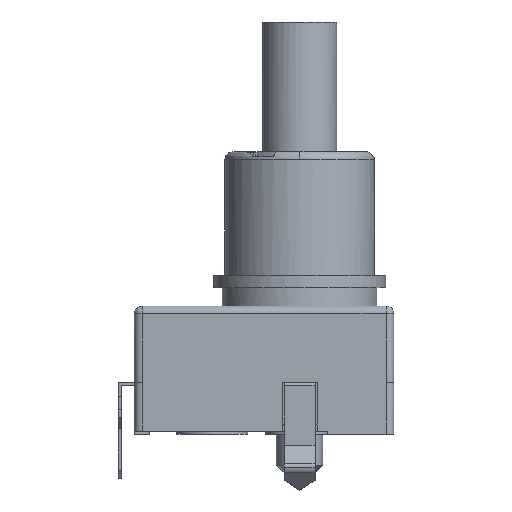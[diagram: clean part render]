
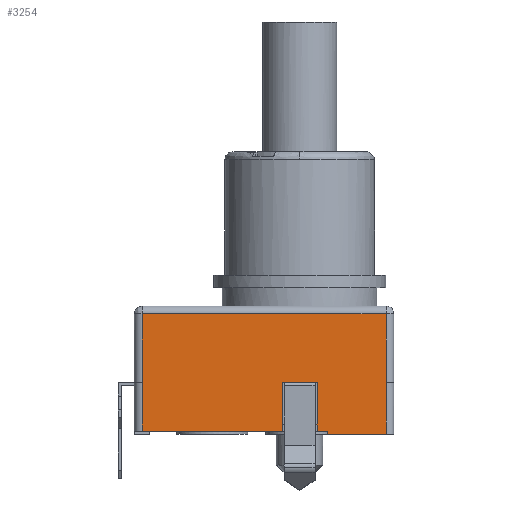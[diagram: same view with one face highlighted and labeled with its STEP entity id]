
A CAD part, top view. The second image highlights one B-rep face of the part: STEP entity #3254.
In plain terms, the highlighted planar face has unit normal (0, 0, 1).
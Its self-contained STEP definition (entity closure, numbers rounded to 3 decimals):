
#126 = VERTEX_POINT ( 'NONE', #7801 ) ;
#237 = CARTESIAN_POINT ( 'NONE',  ( 5.598, -11.85, 7. ) ) ;
#298 = DIRECTION ( 'NONE',  ( 0., 0., -1. ) ) ;
#309 = CARTESIAN_POINT ( 'NONE',  ( 5.598, -15.2, 7. ) ) ;
#376 = EDGE_CURVE ( 'NONE', #126, #15775, #9213, .T. ) ;
#452 = ORIENTED_EDGE ( 'NONE', *, *, #13924, .T. ) ;
#642 = CARTESIAN_POINT ( 'NONE',  ( -10.2, -15.2, 7. ) ) ;
#682 = LINE ( 'NONE', #642, #7141 ) ;
#784 = EDGE_CURVE ( 'NONE', #13717, #13704, #11851, .T. ) ;
#866 = VECTOR ( 'NONE', #6426, 1000. ) ;
#968 = VECTOR ( 'NONE', #8650, 1000. ) ;
#1175 = VECTOR ( 'NONE', #4531, 1000. ) ;
#1200 = B_SPLINE_CURVE_WITH_KNOTS ( 'NONE', 3,
 ( #6208, #8677, #7501, #237 ),
 .UNSPECIFIED., .F., .F.,
 ( 4, 4 ),
 ( 0., 1. ),
 .UNSPECIFIED. ) ;
#1557 = LINE ( 'NONE', #3324, #1175 ) ;
#1740 = LINE ( 'NONE', #10332, #4951 ) ;
#1941 = ORIENTED_EDGE ( 'NONE', *, *, #12797, .F. ) ;
#1972 = CARTESIAN_POINT ( 'NONE',  ( 1.14, -11.85, 7. ) ) ;
#1999 = VERTEX_POINT ( 'NONE', #5540 ) ;
#2303 = ORIENTED_EDGE ( 'NONE', *, *, #10549, .F. ) ;
#2349 = CARTESIAN_POINT ( 'NONE',  ( -10.2, -7.4, 7. ) ) ;
#2468 = CARTESIAN_POINT ( 'NONE',  ( -0.782, -15., 7. ) ) ;
#2472 = CARTESIAN_POINT ( 'NONE',  ( -0.782, -7.4, 7. ) ) ;
#2484 = VECTOR ( 'NONE', #10984, 1000. ) ;
#2617 = DIRECTION ( 'NONE',  ( -1., 0., 0. ) ) ;
#2724 = VECTOR ( 'NONE', #12401, 1000. ) ;
#2742 = VECTOR ( 'NONE', #14718, 1000. ) ;
#2857 = LINE ( 'NONE', #2468, #2484 ) ;
#3172 = ORIENTED_EDGE ( 'NONE', *, *, #13498, .F. ) ;
#3254 = ADVANCED_FACE ( 'NONE', ( #5310 ), #12336, .F. ) ;
#3323 = VECTOR ( 'NONE', #5835, 1000. ) ;
#3324 = CARTESIAN_POINT ( 'NONE',  ( 5.6, -15.2, 7. ) ) ;
#3388 = VECTOR ( 'NONE', #13317, 1000. ) ;
#3576 = CARTESIAN_POINT ( 'NONE',  ( -0.782, -15., 7. ) ) ;
#4212 = EDGE_CURVE ( 'NONE', #8545, #13845, #5972, .T. ) ;
#4230 = DIRECTION ( 'NONE',  ( 0., 1., 0. ) ) ;
#4297 = VERTEX_POINT ( 'NONE', #4880 ) ;
#4531 = DIRECTION ( 'NONE',  ( 0., -1., 0. ) ) ;
#4880 = CARTESIAN_POINT ( 'NONE',  ( 1.798, -15., 7. ) ) ;
#4951 = VECTOR ( 'NONE', #7983, 1000. ) ;
#5119 = EDGE_CURVE ( 'NONE', #5138, #10331, #11672, .T. ) ;
#5138 = VERTEX_POINT ( 'NONE', #5958 ) ;
#5236 = CARTESIAN_POINT ( 'NONE',  ( -10.2, -11.85, 7. ) ) ;
#5310 = FACE_OUTER_BOUND ( 'NONE', #10324, .T. ) ;
#5416 = VERTEX_POINT ( 'NONE', #10677 ) ;
#5476 = LINE ( 'NONE', #9943, #11961 ) ;
#5540 = CARTESIAN_POINT ( 'NONE',  ( -10.202, -15., 7. ) ) ;
#5835 = DIRECTION ( 'NONE',  ( -1., 0., 0. ) ) ;
#5846 = CARTESIAN_POINT ( 'NONE',  ( -10.2, -11.85, 7. ) ) ;
#5852 = ORIENTED_EDGE ( 'NONE', *, *, #14104, .F. ) ;
#5910 = ORIENTED_EDGE ( 'NONE', *, *, #376, .F. ) ;
#5958 = CARTESIAN_POINT ( 'NONE',  ( -10.201, -11.85, 7. ) ) ;
#5972 = LINE ( 'NONE', #2472, #2742 ) ;
#5995 = EDGE_CURVE ( 'NONE', #13717, #13549, #12651, .T. ) ;
#6134 = CARTESIAN_POINT ( 'NONE',  ( 5.6, -11.85, 7. ) ) ;
#6208 = CARTESIAN_POINT ( 'NONE',  ( 5.6, -11.85, 7. ) ) ;
#6354 = CARTESIAN_POINT ( 'NONE',  ( 1.798, -15.2, 7. ) ) ;
#6426 = DIRECTION ( 'NONE',  ( 0., 1., 0. ) ) ;
#6673 = ORIENTED_EDGE ( 'NONE', *, *, #12026, .F. ) ;
#7001 = ORIENTED_EDGE ( 'NONE', *, *, #8008, .F. ) ;
#7141 = VECTOR ( 'NONE', #4230, 1000. ) ;
#7334 = LINE ( 'NONE', #13716, #866 ) ;
#7343 = ORIENTED_EDGE ( 'NONE', *, *, #4212, .F. ) ;
#7501 = CARTESIAN_POINT ( 'NONE',  ( 5.599, -11.85, 7. ) ) ;
#7564 = CARTESIAN_POINT ( 'NONE',  ( -0.782, -15.2, 7. ) ) ;
#7801 = CARTESIAN_POINT ( 'NONE',  ( 5.598, -11.85, 7. ) ) ;
#7983 = DIRECTION ( 'NONE',  ( 0., 1., 0. ) ) ;
#8008 = EDGE_CURVE ( 'NONE', #5416, #1999, #2857, .T. ) ;
#8038 = EDGE_CURVE ( 'NONE', #1999, #5138, #10686, .T. ) ;
#8459 = CARTESIAN_POINT ( 'NONE',  ( 1.14, -15.2, 7. ) ) ;
#8545 = VERTEX_POINT ( 'NONE', #2349 ) ;
#8560 = EDGE_CURVE ( 'NONE', #4297, #13704, #15568, .T. ) ;
#8650 = DIRECTION ( 'NONE',  ( 0., 1., 0. ) ) ;
#8677 = CARTESIAN_POINT ( 'NONE',  ( 5.599, -11.85, 7. ) ) ;
#8790 = DIRECTION ( 'NONE',  ( 0., 1., 0. ) ) ;
#8897 = ORIENTED_EDGE ( 'NONE', *, *, #8038, .F. ) ;
#9213 = LINE ( 'NONE', #309, #2724 ) ;
#9332 = ORIENTED_EDGE ( 'NONE', *, *, #784, .T. ) ;
#9389 = CARTESIAN_POINT ( 'NONE',  ( 5.598, -15.2, 7. ) ) ;
#9412 = VERTEX_POINT ( 'NONE', #6134 ) ;
#9943 = CARTESIAN_POINT ( 'NONE',  ( -0.782, -15.2, 7. ) ) ;
#9964 = CARTESIAN_POINT ( 'NONE',  ( 5.6, -7.4, 7. ) ) ;
#10275 = VERTEX_POINT ( 'NONE', #6354 ) ;
#10324 = EDGE_LOOP ( 'NONE', ( #5910, #3172, #2303, #7343, #5852, #11495, #8897, #7001, #452, #14258, #9332, #11882, #6673, #1941 ) ) ;
#10331 = VERTEX_POINT ( 'NONE', #5236 ) ;
#10332 = CARTESIAN_POINT ( 'NONE',  ( 1.798, -15., 7. ) ) ;
#10549 = EDGE_CURVE ( 'NONE', #13845, #9412, #1557, .T. ) ;
#10677 = CARTESIAN_POINT ( 'NONE',  ( -1.14, -15., 7. ) ) ;
#10686 = LINE ( 'NONE', #14714, #968 ) ;
#10984 = DIRECTION ( 'NONE',  ( -1., 0., 0. ) ) ;
#11495 = ORIENTED_EDGE ( 'NONE', *, *, #5119, .F. ) ;
#11672 = B_SPLINE_CURVE_WITH_KNOTS ( 'NONE', 3,
 ( #11939, #11887, #13164, #5846 ),
 .UNSPECIFIED., .F., .F.,
 ( 4, 4 ),
 ( 0., 1. ),
 .UNSPECIFIED. ) ;
#11851 = LINE ( 'NONE', #8459, #14701 ) ;
#11882 = ORIENTED_EDGE ( 'NONE', *, *, #8560, .F. ) ;
#11887 = CARTESIAN_POINT ( 'NONE',  ( -10.201, -11.85, 7. ) ) ;
#11911 = DIRECTION ( 'NONE',  ( 0., -1., 0. ) ) ;
#11939 = CARTESIAN_POINT ( 'NONE',  ( -10.201, -11.85, 7. ) ) ;
#11961 = VECTOR ( 'NONE', #2617, 1000. ) ;
#12026 = EDGE_CURVE ( 'NONE', #10275, #4297, #1740, .T. ) ;
#12336 = PLANE ( 'NONE',  #13725 ) ;
#12401 = DIRECTION ( 'NONE',  ( 0., -1., 0. ) ) ;
#12500 = CARTESIAN_POINT ( 'NONE',  ( -1.14, -11.85, 7. ) ) ;
#12651 = LINE ( 'NONE', #13152, #3323 ) ;
#12797 = EDGE_CURVE ( 'NONE', #15775, #10275, #5476, .T. ) ;
#12867 = CARTESIAN_POINT ( 'NONE',  ( 1.14, -15., 7. ) ) ;
#13152 = CARTESIAN_POINT ( 'NONE',  ( -0.782, -11.85, 7. ) ) ;
#13164 = CARTESIAN_POINT ( 'NONE',  ( -10.2, -11.85, 7. ) ) ;
#13317 = DIRECTION ( 'NONE',  ( -1., 0., 0. ) ) ;
#13498 = EDGE_CURVE ( 'NONE', #9412, #126, #1200, .T. ) ;
#13549 = VERTEX_POINT ( 'NONE', #12500 ) ;
#13704 = VERTEX_POINT ( 'NONE', #12867 ) ;
#13716 = CARTESIAN_POINT ( 'NONE',  ( -1.14, -15.2, 7. ) ) ;
#13717 = VERTEX_POINT ( 'NONE', #1972 ) ;
#13725 = AXIS2_PLACEMENT_3D ( 'NONE', #7564, #298, #8790 ) ;
#13845 = VERTEX_POINT ( 'NONE', #9964 ) ;
#13924 = EDGE_CURVE ( 'NONE', #5416, #13549, #7334, .T. ) ;
#14104 = EDGE_CURVE ( 'NONE', #10331, #8545, #682, .T. ) ;
#14258 = ORIENTED_EDGE ( 'NONE', *, *, #5995, .F. ) ;
#14701 = VECTOR ( 'NONE', #11911, 1000. ) ;
#14714 = CARTESIAN_POINT ( 'NONE',  ( -10.202, -15.2, 7. ) ) ;
#14718 = DIRECTION ( 'NONE',  ( 1., 0., 0. ) ) ;
#15568 = LINE ( 'NONE', #3576, #3388 ) ;
#15775 = VERTEX_POINT ( 'NONE', #9389 ) ;
